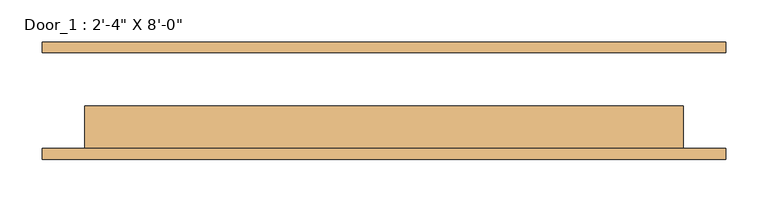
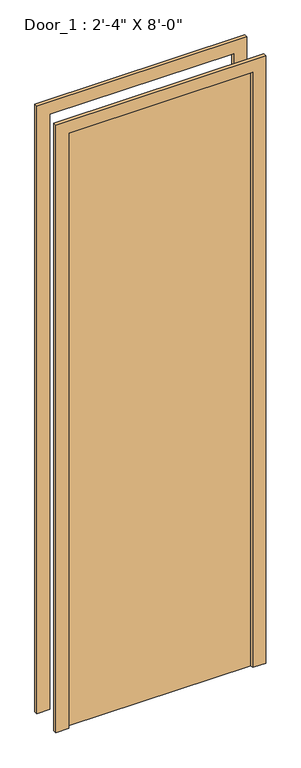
"""IFC4 building model written with IfcOpenShell, lengths in millimetres: door geometry."""

from ifc_helpers import new_model, si_unit, frame, origin, origin_with_axes, place, context, project, spatial, polyline, outline, extrude, source, transform, mapped, element, save


def door_c2b4dc18(model_context):
    return source(origin(), model_context, "Body", "SweptSolid", [
        extrude(outline(polyline([(2489.2, -406.4), (0.0, -406.4), (0.0, -355.6), (2438.4, -355.6), (2438.4, 355.6), (0.0, 355.6), (0.0, 406.4), (2489.2, 406.4), (2489.2, -406.4)])), frame((0.0, -69.85, 0.0), z_axis=(0.0, 1.0, 0.0), x_axis=(0.0, 0.0, 1.0)), (0.0, 0.0, 1.0), 12.7),
        extrude(outline(polyline([(2489.2, 406.4), (2489.2, -406.4), (0.0, -406.4), (0.0, -355.6), (2438.4, -355.6), (2438.4, 355.6), (0.0, 355.6), (0.0, 406.4), (2489.2, 406.4)])), frame((0.0, 57.15, 0.0), z_axis=(0.0, 1.0, 0.0), x_axis=(0.0, 0.0, 1.0)), (0.0, 0.0, 1.0), 12.7),
        extrude(outline(polyline([(355.6, -6.35), (355.6, -57.15), (-355.6, -57.15), (-355.6, -6.35), (355.6, -6.35)])), origin_with_axes(), (0.0, 0.0, 1.0), 2438.4),
    ])


if __name__ == "__main__":
    model = new_model("IFC4")
    model_context = context("Model", 3, world=origin())
    ifc_project = project(units=[si_unit("LENGTHUNIT", "METRE", prefix="MILLI")], contexts=[model_context])
    site = spatial("IfcSite", under=ifc_project)
    building = spatial("IfcBuilding", under=site)
    placement = place(None, origin())
    door_shape = door_c2b4dc18(model_context)
    element("IfcDoor", 1, ObjectType="Door_1 : 2'-4\" X 8'-0\"", at=placement, inside=building, context=model_context, shape_type="MappedRepresentation", body=[
        mapped(door_shape, transform((0.0, 0.0, 0.0), x_axis=(1.0, 0.0, 0.0), y_axis=(0.0, 1.0, 0.0), z_axis=(0.0, 0.0, 1.0))),
    ])
    save(model, "model.ifc")
